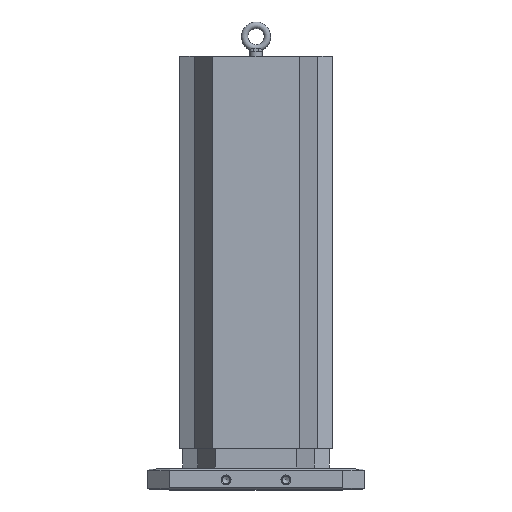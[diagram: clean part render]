
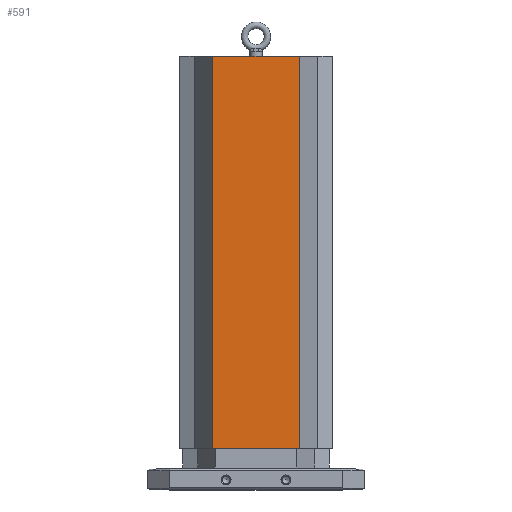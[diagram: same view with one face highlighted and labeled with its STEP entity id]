
A CAD part, top view. The second image highlights one B-rep face of the part: STEP entity #591.
In plain terms, the highlighted planar face has unit normal (0, 0, 1) as drawn and (0, 0, -1) by its records, which use the part's own axes.
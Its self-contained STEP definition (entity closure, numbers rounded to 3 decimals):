
#52 = DIRECTION ( 'NONE',  ( 1., 0., 0. ) ) ;
#302 = CARTESIAN_POINT ( 'NONE',  ( -79.756, 762., -116.992 ) ) ;
#321 = DIRECTION ( 'NONE',  ( 0., 0., -1. ) ) ;
#489 = LINE ( 'NONE', #4088, #11649 ) ;
#515 = EDGE_CURVE ( 'NONE', #868, #5665, #9970, .T. ) ;
#591 = ADVANCED_FACE ( 'NONE', ( #9220 ), #2983, .T. ) ;
#739 = LINE ( 'NONE', #6256, #10419 ) ;
#823 = VECTOR ( 'NONE', #3853, 1000. ) ;
#868 = VERTEX_POINT ( 'NONE', #1604 ) ;
#908 = DIRECTION ( 'NONE',  ( 0., -1., 0. ) ) ;
#1369 = EDGE_CURVE ( 'NONE', #8172, #868, #6472, .T. ) ;
#1604 = CARTESIAN_POINT ( 'NONE',  ( 79.756, 762., -116.992 ) ) ;
#1615 = ORIENTED_EDGE ( 'NONE', *, *, #1369, .T. ) ;
#2181 = CARTESIAN_POINT ( 'NONE',  ( -79.756, 38.1, -116.992 ) ) ;
#2747 = EDGE_CURVE ( 'NONE', #8172, #7091, #489, .T. ) ;
#2780 = DIRECTION ( 'NONE',  ( 1., 0., 0. ) ) ;
#2983 = PLANE ( 'NONE',  #10957 ) ;
#3853 = DIRECTION ( 'NONE',  ( 0., -1., 0. ) ) ;
#4088 = CARTESIAN_POINT ( 'NONE',  ( -79.756, 953.126, -116.992 ) ) ;
#5143 = ORIENTED_EDGE ( 'NONE', *, *, #9385, .F. ) ;
#5665 = VERTEX_POINT ( 'NONE', #11082 ) ;
#6256 = CARTESIAN_POINT ( 'NONE',  ( -79.756, 38.1, -116.992 ) ) ;
#6295 = ORIENTED_EDGE ( 'NONE', *, *, #2747, .F. ) ;
#6394 = CARTESIAN_POINT ( 'NONE',  ( -79.756, 953.126, -116.992 ) ) ;
#6472 = LINE ( 'NONE', #10050, #9289 ) ;
#7091 = VERTEX_POINT ( 'NONE', #2181 ) ;
#7276 = DIRECTION ( 'NONE',  ( -1., 0., 0. ) ) ;
#8172 = VERTEX_POINT ( 'NONE', #302 ) ;
#9220 = FACE_OUTER_BOUND ( 'NONE', #10273, .T. ) ;
#9277 = CARTESIAN_POINT ( 'NONE',  ( 79.756, 953.126, -116.992 ) ) ;
#9289 = VECTOR ( 'NONE', #2780, 1000. ) ;
#9385 = EDGE_CURVE ( 'NONE', #7091, #5665, #739, .T. ) ;
#9970 = LINE ( 'NONE', #9277, #823 ) ;
#10050 = CARTESIAN_POINT ( 'NONE',  ( -79.756, 762., -116.992 ) ) ;
#10273 = EDGE_LOOP ( 'NONE', ( #6295, #1615, #10548, #5143 ) ) ;
#10419 = VECTOR ( 'NONE', #52, 1000. ) ;
#10548 = ORIENTED_EDGE ( 'NONE', *, *, #515, .T. ) ;
#10957 = AXIS2_PLACEMENT_3D ( 'NONE', #6394, #321, #7276 ) ;
#11082 = CARTESIAN_POINT ( 'NONE',  ( 79.756, 38.1, -116.992 ) ) ;
#11649 = VECTOR ( 'NONE', #908, 1000. ) ;
